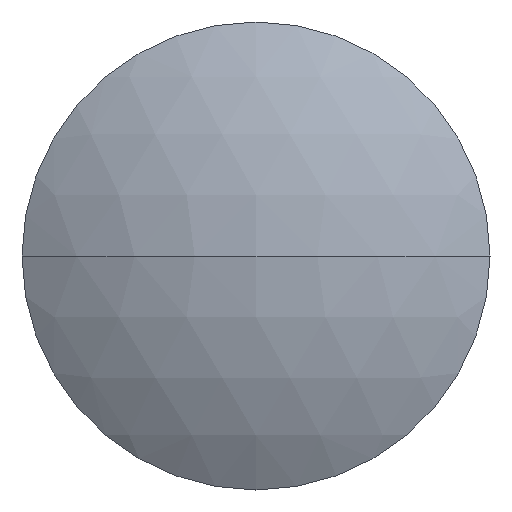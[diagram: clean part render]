
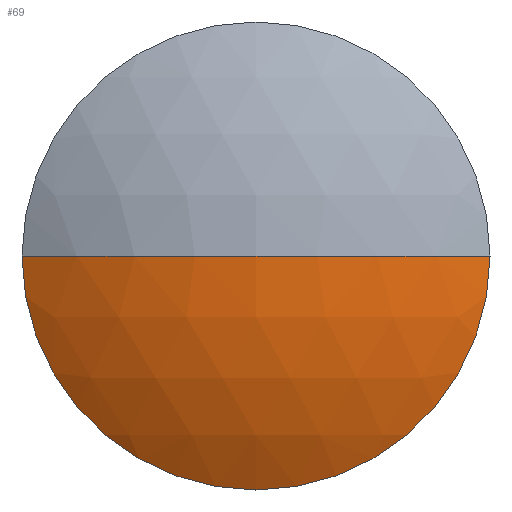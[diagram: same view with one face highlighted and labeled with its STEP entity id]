
A CAD part, left-side view. The second image highlights one B-rep face of the part: STEP entity #69.
In plain terms, the highlighted spherical face has radius 20.404 mm.
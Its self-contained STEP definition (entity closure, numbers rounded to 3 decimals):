
#5 = DIRECTION ( 'NONE',  ( 1., 0., 0. ) ) ;
#19 = ORIENTED_EDGE ( 'NONE', *, *, #57, .T. ) ;
#33 = EDGE_CURVE ( 'NONE', #141, #46, #215, .T. ) ;
#35 = SPHERICAL_SURFACE ( 'NONE', #36, 20.404 ) ;
#36 = AXIS2_PLACEMENT_3D ( 'NONE', #41, #199, #144 ) ;
#41 = CARTESIAN_POINT ( 'NONE',  ( 15.404, 0., 0. ) ) ;
#46 = VERTEX_POINT ( 'NONE', #265 ) ;
#57 = EDGE_CURVE ( 'NONE', #46, #59, #322, .T. ) ;
#59 = VERTEX_POINT ( 'NONE', #240 ) ;
#69 = ADVANCED_FACE ( 'NONE', ( #175 ), #35, .T. ) ;
#71 = DIRECTION ( 'NONE',  ( 0., 0., 1. ) ) ;
#73 = ORIENTED_EDGE ( 'NONE', *, *, #33, .T. ) ;
#81 = EDGE_CURVE ( 'NONE', #114, #59, #186, .T. ) ;
#89 = DIRECTION ( 'NONE',  ( -1., 0., 0. ) ) ;
#106 = CIRCLE ( 'NONE', #295, 10.65 ) ;
#114 = VERTEX_POINT ( 'NONE', #224 ) ;
#123 = EDGE_CURVE ( 'NONE', #114, #141, #106, .T. ) ;
#136 = DIRECTION ( 'NONE',  ( 0., 1., 0. ) ) ;
#141 = VERTEX_POINT ( 'NONE', #274 ) ;
#144 = DIRECTION ( 'NONE',  ( 0., 1., 0. ) ) ;
#145 = AXIS2_PLACEMENT_3D ( 'NONE', #330, #214, #160 ) ;
#160 = DIRECTION ( 'NONE',  ( 0., 0., 1. ) ) ;
#165 = CARTESIAN_POINT ( 'NONE',  ( 15.404, 0., 0. ) ) ;
#172 = DIRECTION ( 'NONE',  ( 0., 0., 1. ) ) ;
#175 = FACE_OUTER_BOUND ( 'NONE', #185, .T. ) ;
#185 = EDGE_LOOP ( 'NONE', ( #189, #73, #19, #344 ) ) ;
#186 = CIRCLE ( 'NONE', #233, 20.404 ) ;
#189 = ORIENTED_EDGE ( 'NONE', *, *, #123, .T. ) ;
#199 = DIRECTION ( 'NONE',  ( 0., 0., -1. ) ) ;
#214 = DIRECTION ( 'NONE',  ( -1., 0., 0. ) ) ;
#215 = CIRCLE ( 'NONE', #145, 10.65 ) ;
#224 = CARTESIAN_POINT ( 'NONE',  ( -2., 10.65, 0. ) ) ;
#233 = AXIS2_PLACEMENT_3D ( 'NONE', #248, #71, #5 ) ;
#240 = CARTESIAN_POINT ( 'NONE',  ( -5., 0., 0. ) ) ;
#248 = CARTESIAN_POINT ( 'NONE',  ( 15.404, 0., 0. ) ) ;
#265 = CARTESIAN_POINT ( 'NONE',  ( -2., -10.65, 0. ) ) ;
#270 = DIRECTION ( 'NONE',  ( 0., 0., -1. ) ) ;
#274 = CARTESIAN_POINT ( 'NONE',  ( -2., 0., -10.65 ) ) ;
#276 = CARTESIAN_POINT ( 'NONE',  ( -2., 0., 0. ) ) ;
#295 = AXIS2_PLACEMENT_3D ( 'NONE', #276, #89, #172 ) ;
#322 = CIRCLE ( 'NONE', #347, 20.404 ) ;
#330 = CARTESIAN_POINT ( 'NONE',  ( -2., 0., 0. ) ) ;
#344 = ORIENTED_EDGE ( 'NONE', *, *, #81, .F. ) ;
#347 = AXIS2_PLACEMENT_3D ( 'NONE', #165, #270, #136 ) ;
